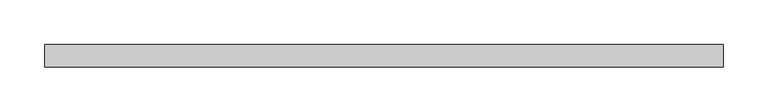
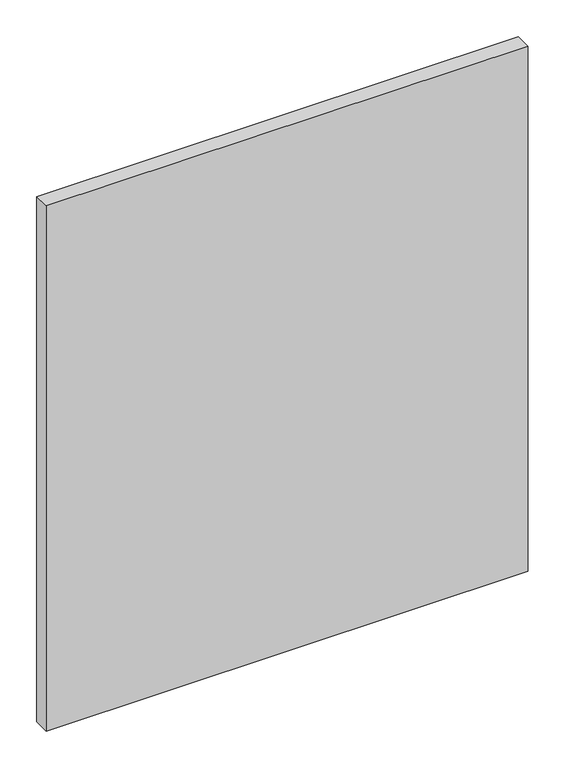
"""IFC4 building model written with IfcOpenShell, lengths in millimetres: plate geometry, 系统嵌板 : 玻璃."""

from ifc_helpers import new_model, si_unit, origin, origin_with_axes, place, context, project, spatial, polyline, outline, extrude, source, transform, mapped, element, save


def plate_5ff895a2(model_context):
    return source(origin(), model_context, "Body", "SweptSolid", [
        extrude(outline(polyline([(377.5, -12.5), (-377.5, -12.5), (-377.5, 12.5), (377.5, 12.5), (377.5, -12.5)])), origin_with_axes(), (0.0, 0.0, 1.0), 870.0),
    ])


if __name__ == "__main__":
    model = new_model("IFC4")
    model_context = context("Model", 3, world=origin())
    ifc_project = project(units=[si_unit("LENGTHUNIT", "METRE", prefix="MILLI")], contexts=[model_context])
    site = spatial("IfcSite", under=ifc_project)
    building = spatial("IfcBuilding", under=site)
    placement = place(None, origin())
    plate_shape = plate_5ff895a2(model_context)
    element("IfcPlate", 1, ObjectType="系统嵌板 : 玻璃", at=placement, inside=building, context=model_context, shape_type="MappedRepresentation", body=[
        mapped(plate_shape, transform((0.0, 0.0, 0.0), x_axis=(1.0, 0.0, 0.0), y_axis=(0.0, 1.0, 0.0), z_axis=(0.0, 0.0, 1.0))),
    ])
    save(model, "model.ifc")
